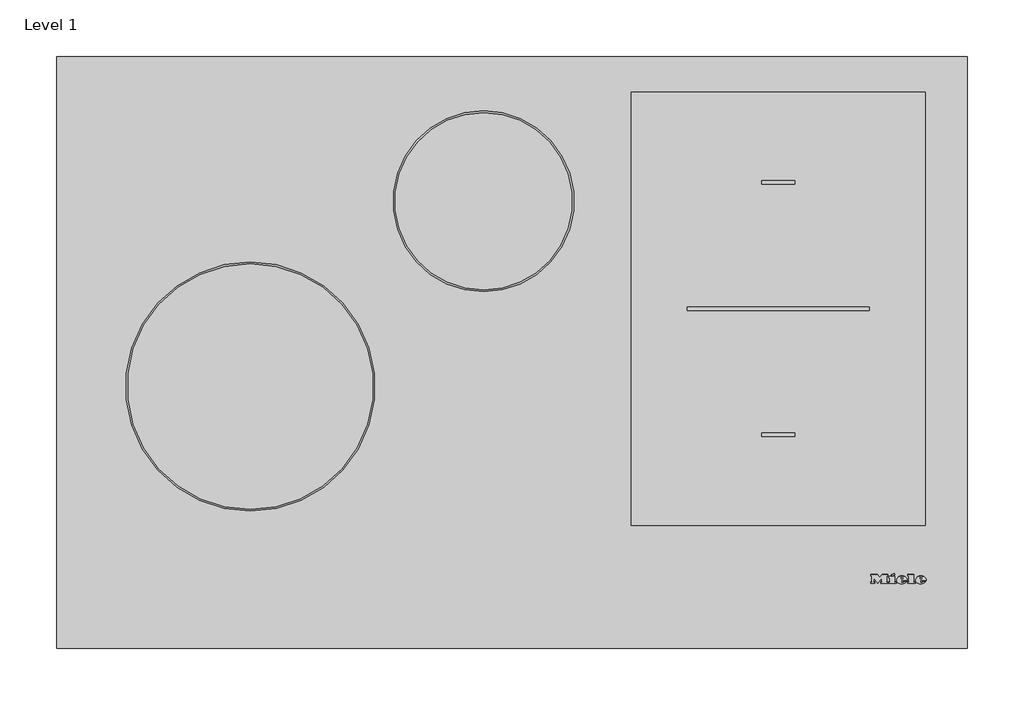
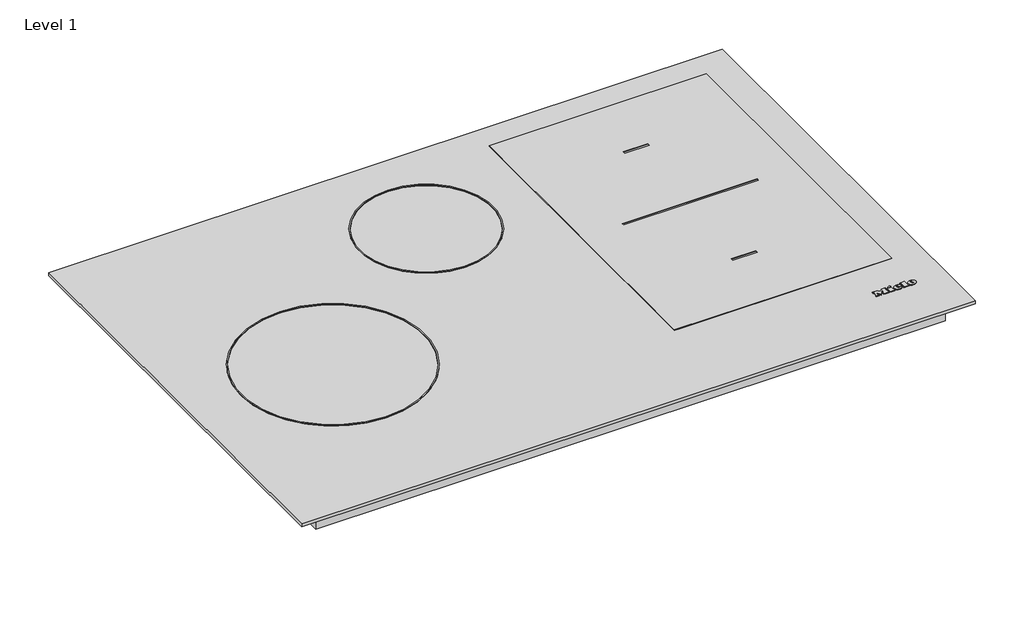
# One storey: 1 proxy.
"""IFC4 building model written with IfcOpenShell, lengths in millimetres."""

from ifc_helpers import new_model, si_unit, origin, place, context, project, spatial, transform, mapped, element, save
from components import specialty_equipment_7e4819c2

model = new_model("IFC4")

# Units and contexts
model_context = context("Model", 3, world=origin())
ifc_project = project(units=[si_unit("LENGTHUNIT", "METRE", prefix="MILLI")], contexts=[model_context])

# Site, building, storey
site = spatial("IfcSite", under=ifc_project)
building = spatial("IfcBuilding", under=site)
storey = spatial("IfcBuildingStorey", under=building, Name="Level 1", Elevation=0.0)

# Proxy
placement = place(None, origin())
specialty_equipment_shape = specialty_equipment_7e4819c2(model_context)
element("IfcBuildingElementProxy", 1, Name="11506350_D_KM7879FL : 26787970_D_11506350_KM7879FL", ObjectType="11506350_D_KM7879FL : 26787970_D_11506350_KM7879FL", at=placement, inside=storey, context=model_context, shape_type="MappedRepresentation", body=[
    mapped(specialty_equipment_shape, transform((0.0, 0.0, 0.0), x_axis=(1.0, 0.0, 0.0), y_axis=(0.0, 1.0, 0.0), z_axis=(0.0, 0.0, 1.0))),
])

save(model, "model.ifc")
